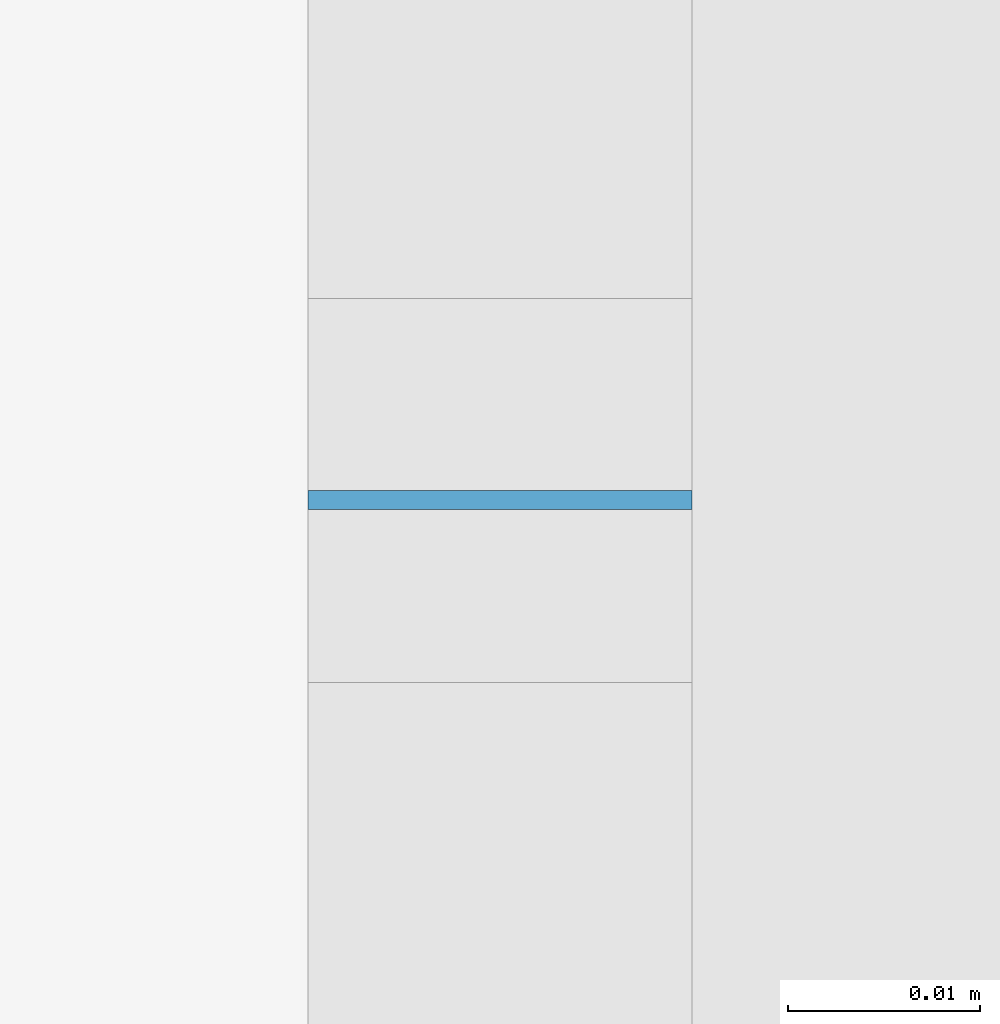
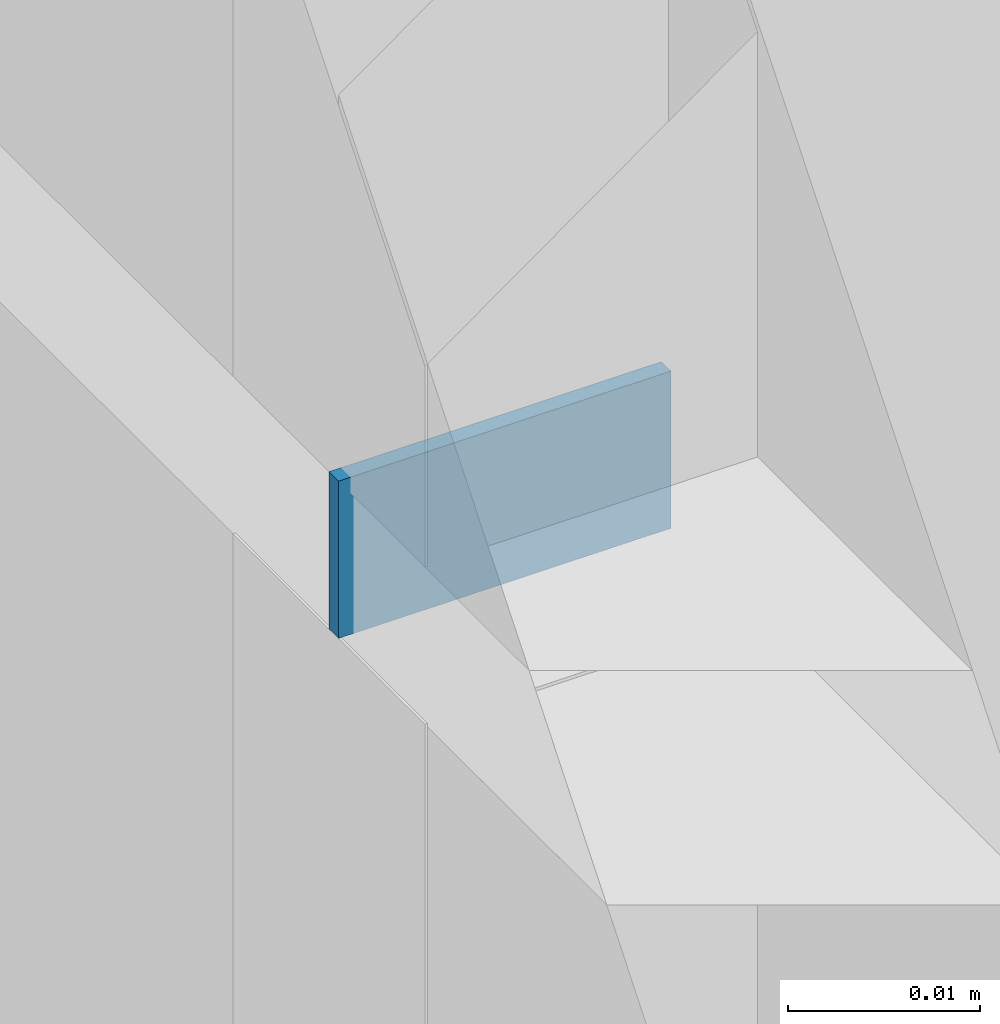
# One storey, part 49 of 73: 1 plate, 1 element without a shape of its own.
"""IFC2X3 building model written with IfcOpenShell, lengths in millimetres."""

from ifc_helpers import new_model, entity, si_unit, converted_unit, derived_unit, direction, frame, origin, origin_2d_with_axis, place, context, subcontext, project, spatial, rectangle, extrude, source, transform, mapped, material, layer, layer_set, layer_usage, type_object, type_shapes, element, aggregate, save


model = new_model("IFC2X3")

# Units and contexts
model_context = context("Model", 3, precision=0.01, world=origin(), true_north=direction((6.12303176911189e-17, 1.0)))
body_context = subcontext(model_context, "Body", "Model", "MODEL_VIEW")
ifc_project = project(units=[si_unit("LENGTHUNIT", "METRE", prefix="MILLI"), si_unit("AREAUNIT", "SQUARE_METRE"), si_unit("VOLUMEUNIT", "CUBIC_METRE"), converted_unit("PLANEANGLEUNIT", "DEGREE", entity("IfcRatioMeasure", 0.0174532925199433), si_unit("PLANEANGLEUNIT", "RADIAN"), dimensions=[0, 0, 0, 0, 0, 0, 0]), si_unit("MASSUNIT", "GRAM", prefix="KILO"), derived_unit("MASSDENSITYUNIT", [(si_unit("MASSUNIT", "GRAM", prefix="KILO"), 1), (si_unit("LENGTHUNIT", "METRE"), -3)]), si_unit("TIMEUNIT", "SECOND"), si_unit("FREQUENCYUNIT", "HERTZ"), si_unit("THERMODYNAMICTEMPERATUREUNIT", "DEGREE_CELSIUS"), derived_unit("THERMALTRANSMITTANCEUNIT", [(si_unit("MASSUNIT", "GRAM", prefix="KILO"), 1), (si_unit("THERMODYNAMICTEMPERATUREUNIT", "KELVIN"), -1), (si_unit("TIMEUNIT", "SECOND"), -3)]), derived_unit("VOLUMETRICFLOWRATEUNIT", [(si_unit("LENGTHUNIT", "METRE"), 3), (si_unit("TIMEUNIT", "SECOND"), -1)]), si_unit("ELECTRICCURRENTUNIT", "AMPERE"), si_unit("ELECTRICVOLTAGEUNIT", "VOLT"), si_unit("POWERUNIT", "WATT"), si_unit("FORCEUNIT", "NEWTON", prefix="KILO"), si_unit("ILLUMINANCEUNIT", "LUX"), si_unit("LUMINOUSFLUXUNIT", "LUMEN"), si_unit("LUMINOUSINTENSITYUNIT", "CANDELA"), derived_unit("USERDEFINED", [(si_unit("MASSUNIT", "GRAM", prefix="KILO"), -1), (si_unit("LENGTHUNIT", "METRE"), -2), (si_unit("TIMEUNIT", "SECOND"), 3), (si_unit("LUMINOUSFLUXUNIT", "LUMEN"), 1)]), derived_unit("LINEARVELOCITYUNIT", [(si_unit("LENGTHUNIT", "METRE"), 1), (si_unit("TIMEUNIT", "SECOND"), -1)]), si_unit("PRESSUREUNIT", "PASCAL"), derived_unit("USERDEFINED", [(si_unit("LENGTHUNIT", "METRE"), -2), (si_unit("MASSUNIT", "GRAM", prefix="KILO"), 1), (si_unit("TIMEUNIT", "SECOND"), -2)])], contexts=[model_context])

# Site, building, storey
site_placement = place(None, frame((-151.875543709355, 2715.0, 0.0)))
site = spatial("IfcSite", under=ifc_project, at=site_placement, Name="Surface", CompositionType="ELEMENT")
building_placement = place(site_placement, origin())
building = spatial("IfcBuilding", under=site, at=building_placement, CompositionType="ELEMENT")
storey_placement = place(building_placement, frame((0.0, 0.0, 6730.43000000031)))
storey = spatial("IfcBuildingStorey", under=building, at=storey_placement, Name="3 korrus", CompositionType="ELEMENT", Elevation=6730.43000000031)

# Curtain wall, plate
curtain_wall_type = type_object("IfcCurtainWallType", Name="Curtain Wall:Klaassein KLS-22", PredefinedType="NOTDEFINED")
curtain_wall_placement = place(storey_placement, frame((0.0, 0.0, -6730.43000000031)))
curtain_wall = element("IfcCurtainWall", 1, at=curtain_wall_placement, inside=storey, type_object=curtain_wall_type, Name="Curtain Wall:Klaassein KLS-22", ObjectType="Curtain Wall:Klaassein KLS-22")
ifc_material = material(Name="<Unnamed>")
ifc_layer = layer(ifc_material, 20.0)
ifc_layer_set = layer_set([ifc_layer], Name="Curtain Wall:Klaassein KLS-01")
ifc_layer_usage = layer_usage(ifc_layer_set, "AXIS3", "POSITIVE", 0.0)
plate_type = type_object("IfcPlateType", Name="Glazed", PredefinedType="CURTAIN_PANEL", material=ifc_layer_set)
shared_shape = source(origin(), body_context, "Body", "SweptSolid", [
    extrude(rectangle(XDim=20.0, YDim=0.999999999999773, at=origin_2d_with_axis()), frame((0.0, 0.0, 0.0), z_axis=(0.0, 0.0, 1.0), x_axis=(0.0, 1.0, 0.0)), (0.0, 0.0, 1.0), 9.99999999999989),
])
type_shapes(plate_type, [shared_shape])
plate_placement = place(curtain_wall_placement, frame((29165.6162681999, 11178.8528367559, 8820.43000000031), z_axis=(0.0, 0.0, 1.0), x_axis=(0.0, -1.0, 0.0)))
plate = element("IfcPlate", 2, at=plate_placement, type_object=plate_type, material=ifc_layer_usage, Name="System Panel:Glazed", ObjectType="Glazed", context=body_context, shape_type="MappedRepresentation", body=[
    mapped(shared_shape, transform((0.0, 0.0, 0.0), scale=1.0)),
])
aggregate(curtain_wall, [plate])

save(model, "model.ifc")
